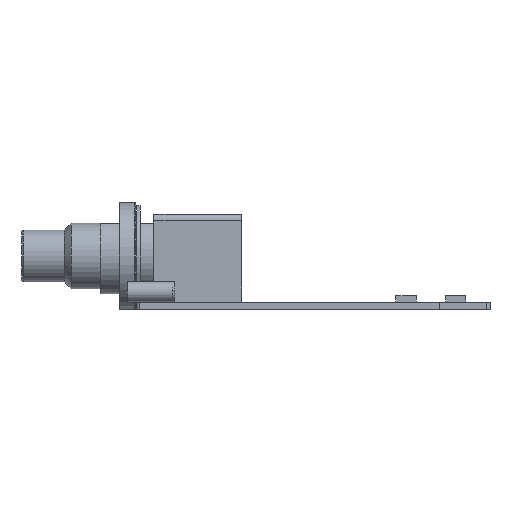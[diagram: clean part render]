
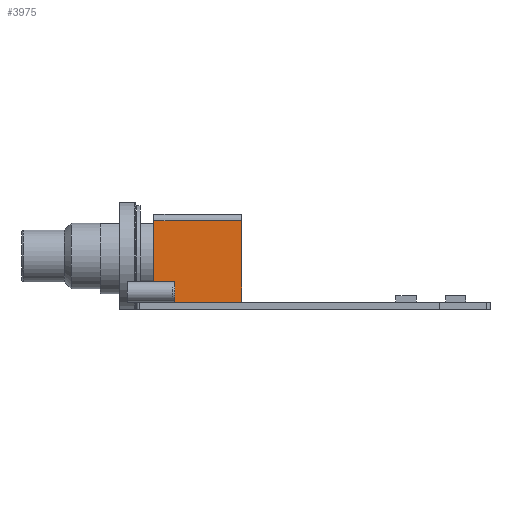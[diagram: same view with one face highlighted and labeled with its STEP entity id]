
A CAD part, left-side view. The second image highlights one B-rep face of the part: STEP entity #3975.
In plain terms, the highlighted planar face has unit normal (-1, 0, 0).
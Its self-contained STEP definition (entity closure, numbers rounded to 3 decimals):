
#456 = VERTEX_POINT ( 'NONE', #10265 ) ;
#517 = CARTESIAN_POINT ( 'NONE',  ( 30.414, 53.254, 0. ) ) ;
#1035 = EDGE_LOOP ( 'NONE', ( #8824, #6138, #6921, #4112 ) ) ;
#1063 = CARTESIAN_POINT ( 'NONE',  ( 30.414, 53.254, 13.9 ) ) ;
#1676 = CARTESIAN_POINT ( 'NONE',  ( 30.414, 39.343, 0. ) ) ;
#1784 = DIRECTION ( 'NONE',  ( 0., 0., -1. ) ) ;
#2461 = DIRECTION ( 'NONE',  ( 0., 0., -1. ) ) ;
#2823 = CARTESIAN_POINT ( 'NONE',  ( 30.414, 39.343, 12.9 ) ) ;
#3059 = CARTESIAN_POINT ( 'NONE',  ( 30.414, 53.254, 12.9 ) ) ;
#3165 = EDGE_CURVE ( 'NONE', #8233, #3783, #4353, .T. ) ;
#3408 = CARTESIAN_POINT ( 'NONE',  ( 30.414, 39.343, 13.9 ) ) ;
#3628 = DIRECTION ( 'NONE',  ( 1., 0., 0. ) ) ;
#3783 = VERTEX_POINT ( 'NONE', #1676 ) ;
#3975 = ADVANCED_FACE ( 'NONE', ( #6096 ), #8856, .F. ) ;
#4112 = ORIENTED_EDGE ( 'NONE', *, *, #7834, .T. ) ;
#4353 = LINE ( 'NONE', #3408, #5717 ) ;
#4556 = DIRECTION ( 'NONE',  ( 0., 1., 0. ) ) ;
#5089 = DIRECTION ( 'NONE',  ( 0., 0., -1. ) ) ;
#5717 = VECTOR ( 'NONE', #2461, 1000. ) ;
#5901 = CARTESIAN_POINT ( 'NONE',  ( 30.414, 53.254, 13.9 ) ) ;
#6096 = FACE_OUTER_BOUND ( 'NONE', #1035, .T. ) ;
#6138 = ORIENTED_EDGE ( 'NONE', *, *, #9270, .T. ) ;
#6255 = VERTEX_POINT ( 'NONE', #3059 ) ;
#6900 = VECTOR ( 'NONE', #4556, 1000. ) ;
#6921 = ORIENTED_EDGE ( 'NONE', *, *, #8032, .T. ) ;
#7362 = VECTOR ( 'NONE', #5089, 1000. ) ;
#7834 = EDGE_CURVE ( 'NONE', #456, #3783, #11046, .T. ) ;
#8032 = EDGE_CURVE ( 'NONE', #6255, #456, #9676, .T. ) ;
#8233 = VERTEX_POINT ( 'NONE', #2823 ) ;
#8463 = DIRECTION ( 'NONE',  ( 0., -1., 0. ) ) ;
#8824 = ORIENTED_EDGE ( 'NONE', *, *, #3165, .F. ) ;
#8856 = PLANE ( 'NONE',  #10586 ) ;
#9270 = EDGE_CURVE ( 'NONE', #8233, #6255, #10995, .T. ) ;
#9676 = LINE ( 'NONE', #5901, #7362 ) ;
#9736 = CARTESIAN_POINT ( 'NONE',  ( 30.414, 53.254, 12.9 ) ) ;
#10265 = CARTESIAN_POINT ( 'NONE',  ( 30.414, 53.254, 0. ) ) ;
#10586 = AXIS2_PLACEMENT_3D ( 'NONE', #1063, #3628, #1784 ) ;
#10907 = VECTOR ( 'NONE', #8463, 1000. ) ;
#10995 = LINE ( 'NONE', #9736, #6900 ) ;
#11046 = LINE ( 'NONE', #517, #10907 ) ;
